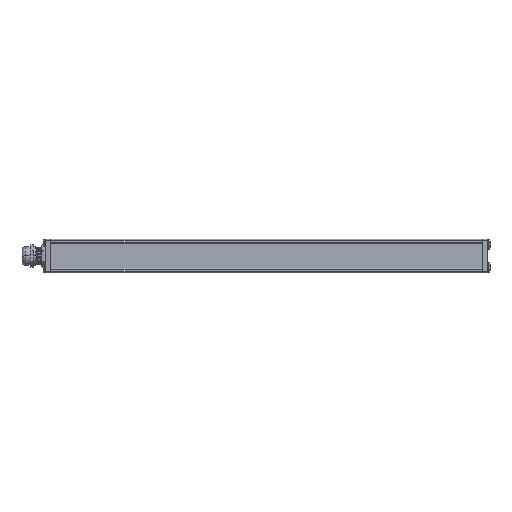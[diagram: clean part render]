
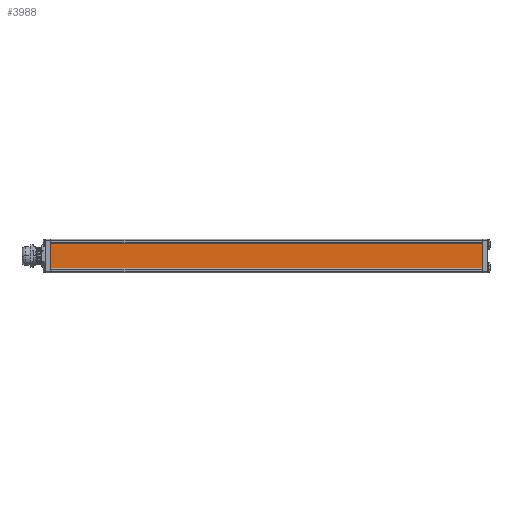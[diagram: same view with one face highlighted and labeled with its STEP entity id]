
A CAD part, top view. The second image highlights one B-rep face of the part: STEP entity #3988.
In plain terms, the highlighted planar face has unit normal (0, 0, 1) as drawn and (0, 1, 0) by its records, which use the part's own axes.
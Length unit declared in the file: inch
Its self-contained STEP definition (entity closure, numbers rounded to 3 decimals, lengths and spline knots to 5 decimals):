
#2585 = CARTESIAN_POINT ( 'NONE',  ( 5.135, 0.03, 0.344 ) ) ;
#2935 = EDGE_LOOP ( 'NONE', ( #20366, #5275, #15466, #7992 ) ) ;
#3988 = ADVANCED_FACE ( 'NONE', ( #23694 ), #19417, .F. ) ;
#4450 = CARTESIAN_POINT ( 'NONE',  ( 5.135, 0.03, 0.344 ) ) ;
#5275 = ORIENTED_EDGE ( 'NONE', *, *, #16460, .F. ) ;
#5276 = EDGE_CURVE ( 'NONE', #22616, #15893, #13896, .T. ) ;
#5334 = VECTOR ( 'NONE', #17235, 39.37008 ) ;
#5537 = DIRECTION ( 'NONE',  ( -1., 0., 0. ) ) ;
#6235 = EDGE_CURVE ( 'NONE', #15893, #12670, #14623, .T. ) ;
#7992 = ORIENTED_EDGE ( 'NONE', *, *, #5276, .T. ) ;
#9343 = LINE ( 'NONE', #14079, #19497 ) ;
#11501 = CARTESIAN_POINT ( 'NONE',  ( -5.135, 0.03, -0.344 ) ) ;
#11712 = CARTESIAN_POINT ( 'NONE',  ( 5.135, 0.03, -0.344 ) ) ;
#11930 = DIRECTION ( 'NONE',  ( -1., 0., 0. ) ) ;
#12031 = CARTESIAN_POINT ( 'NONE',  ( -5.135, 0.03, 0.344 ) ) ;
#12670 = VERTEX_POINT ( 'NONE', #12031 ) ;
#12904 = VERTEX_POINT ( 'NONE', #29774 ) ;
#13896 = LINE ( 'NONE', #19871, #16531 ) ;
#14079 = CARTESIAN_POINT ( 'NONE',  ( 5.135, 0.03, 0.344 ) ) ;
#14440 = DIRECTION ( 'NONE',  ( 0., 0., -1. ) ) ;
#14623 = LINE ( 'NONE', #22080, #5334 ) ;
#15074 = AXIS2_PLACEMENT_3D ( 'NONE', #2585, #21907, #14440 ) ;
#15466 = ORIENTED_EDGE ( 'NONE', *, *, #28088, .F. ) ;
#15893 = VERTEX_POINT ( 'NONE', #11501 ) ;
#16194 = DIRECTION ( 'NONE',  ( 0., 0., 1. ) ) ;
#16460 = EDGE_CURVE ( 'NONE', #12904, #12670, #16476, .T. ) ;
#16476 = LINE ( 'NONE', #4450, #28413 ) ;
#16531 = VECTOR ( 'NONE', #5537, 39.37008 ) ;
#17235 = DIRECTION ( 'NONE',  ( 0., 0., 1. ) ) ;
#19417 = PLANE ( 'NONE',  #15074 ) ;
#19497 = VECTOR ( 'NONE', #16194, 39.37008 ) ;
#19871 = CARTESIAN_POINT ( 'NONE',  ( 5.135, 0.03, -0.344 ) ) ;
#20366 = ORIENTED_EDGE ( 'NONE', *, *, #6235, .T. ) ;
#21907 = DIRECTION ( 'NONE',  ( 0., -1., 0. ) ) ;
#22080 = CARTESIAN_POINT ( 'NONE',  ( -5.135, 0.03, 0.344 ) ) ;
#22616 = VERTEX_POINT ( 'NONE', #11712 ) ;
#23694 = FACE_OUTER_BOUND ( 'NONE', #2935, .T. ) ;
#28088 = EDGE_CURVE ( 'NONE', #22616, #12904, #9343, .T. ) ;
#28413 = VECTOR ( 'NONE', #11930, 39.37008 ) ;
#29774 = CARTESIAN_POINT ( 'NONE',  ( 5.135, 0.03, 0.344 ) ) ;
